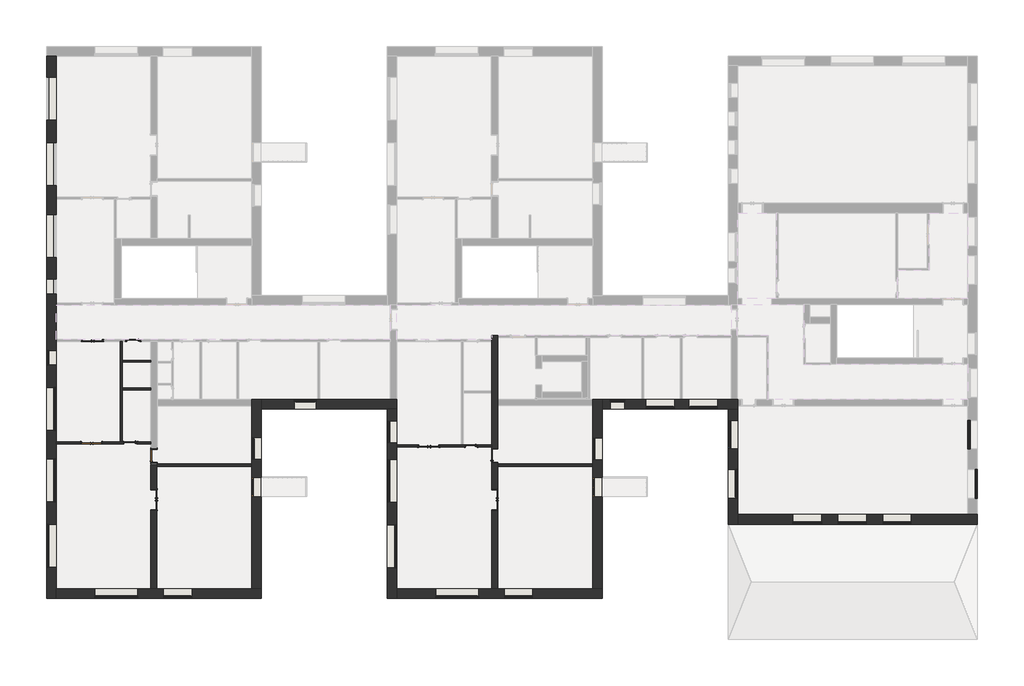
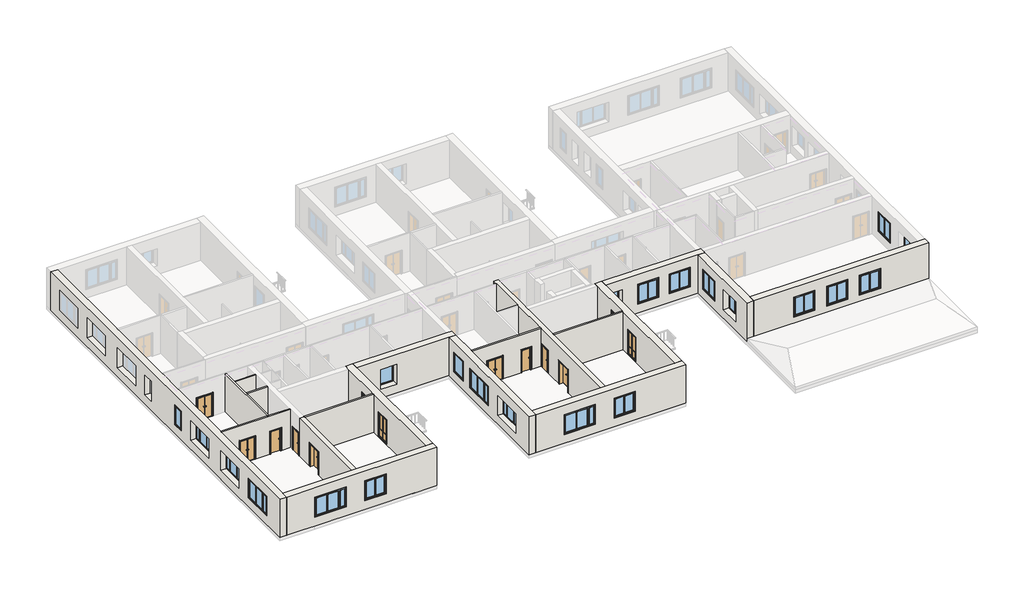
# One storey, part 1 of 4: 24 windows, 19 walls, 12 doors.
"""IFC4 building model written with IfcOpenShell, lengths in millimetres."""

from ifc_helpers import new_model, si_unit, frame, origin, place, context, project, spatial, polyline, outline, extrude, faceted_brep, transform, mapped, element, save
from components import door_6cda5d05, door_65913abd, door_ebb03b69, door_fb527220, door_6515f566, door_53fc3f74, door_a652fb3b, door_428ffb38, window_17d24cb2, window_825c4489, window_d8f3b313, window_630a9bb4

model = new_model("IFC4")

# Units and contexts
model_context = context("Model", 3, world=origin())
ifc_project = project(units=[si_unit("LENGTHUNIT", "METRE", prefix="MILLI")], contexts=[model_context])

# Site, building, storey
site = spatial("IfcSite", under=ifc_project)
building = spatial("IfcBuilding", under=site)
storey = spatial("IfcBuildingStorey", under=building, Name="2 этаж", Elevation=3500.0)

# Doors
placement = place(None, origin())
door_shape = door_6cda5d05(model_context)
element("IfcDoor", 1, ObjectType="Наружная дверь 2-Навесная - Один проем наружу с порогом - 31173-2003 : ДСН ДКН М2 2100-1300 ГОСТ 31173-2003", at=placement, inside=storey, context=model_context, shape_type="MappedRepresentation", body=[
    mapped(door_shape, transform((-14174.8240021, -2742.8629895, 3500.0), x_axis=(1.0, 0.0, 0.0), y_axis=(0.0, 1.0, 0.0), z_axis=(0.0, 0.0, 1.0))),
])
element("IfcDoor", 2, ObjectType="Наружная дверь 2-Навесная - Один проем наружу с порогом - 31173-2003 : ДСН ДКН М2 2100-1300 ГОСТ 31173-2003", at=placement, inside=storey, context=model_context, shape_type="MappedRepresentation", body=[
    mapped(door_shape, transform((-35524.8240021, 3962.1370105, 3500.0), x_axis=(1.0, 0.0, 0.0), y_axis=(0.0, 1.0, 0.0), z_axis=(0.0, 0.0, 1.0))),
])
element("IfcDoor", 3, ObjectType="Наружная дверь 2-Навесная - Один проем наружу с порогом - 31173-2003 : ДСН ДКН М2 2100-1300 ГОСТ 31173-2003", at=placement, inside=storey, context=model_context, shape_type="MappedRepresentation", body=[
    mapped(door_shape, transform((-35584.8240021, -2542.8629895, 3500.0), x_axis=(1.0, 0.0, 0.0), y_axis=(0.0, 1.0, 0.0), z_axis=(0.0, 0.0, 1.0))),
])
door_2_shape = door_65913abd(model_context)
element("IfcDoor", 4, ObjectType="Наружная дверь 2-Навесная - Один проем наружу с порогом - 31173-2003 : ДСН ДКН М2 2100-1300 ГОСТ 31173-2003", at=placement, inside=storey, context=model_context, shape_type="MappedRepresentation", body=[
    mapped(door_2_shape, transform((-9982.3240021, -6152.8629895, 3500.0), x_axis=(0.0, 1.0, 0.0), y_axis=(-1.0, 0.0, 0.0), z_axis=(0.0, 0.0, 1.0))),
])
element("IfcDoor", 5, ObjectType="Наружная дверь 2-Навесная - Один проем наружу с порогом - 31173-2003 : ДСН ДКН М2 2100-1300 ГОСТ 31173-2003", at=placement, inside=storey, context=model_context, shape_type="MappedRepresentation", body=[
    mapped(door_2_shape, transform((-31622.3240021, -6152.8629895, 3500.0), x_axis=(0.0, 1.0, 0.0), y_axis=(-1.0, 0.0, 0.0), z_axis=(0.0, 0.0, 1.0))),
])
door_3_shape = door_ebb03b69(model_context)
element("IfcDoor", 6, ObjectType="Внутренняя дверь 1-Навесная - 6629-88 : ДГ 21-9  ГОСТ 6629-88", at=placement, inside=storey, context=model_context, shape_type="MappedRepresentation", body=[
    mapped(door_3_shape, transform((-9982.3240021, -3347.8629895, 3500.0), x_axis=(0.0, 1.0, 0.0), y_axis=(-1.0, 0.0, 0.0), z_axis=(0.0, 0.0, 1.0))),
])
door_4_shape = door_fb527220(model_context)
element("IfcDoor", 7, ObjectType="Внутренняя дверь 1-Навесная - 6629-88 : ДГ 21-8  ГОСТ 6629-88", at=placement, inside=storey, context=model_context, shape_type="MappedRepresentation", body=[
    mapped(door_4_shape, transform((-11474.8240021, -2742.8629895, 3500.0), x_axis=(-1.0, 0.0, 0.0), y_axis=(0.0, -1.0, 0.0), z_axis=(0.0, 0.0, 1.0))),
])
door_5_shape = door_6515f566(model_context)
element("IfcDoor", 8, ObjectType="Внутренняя дверь 1-Навесная - 6629-88 : ДГ 21-9Л  ГОСТ 6629-88", at=placement, inside=storey, context=model_context, shape_type="MappedRepresentation", body=[
    mapped(door_5_shape, transform((-32944.8240021, 3962.1370105, 3500.0), x_axis=(1.0, 0.0, 0.0), y_axis=(0.0, 1.0, 0.0), z_axis=(0.0, 0.0, 1.0))),
])
door_6_shape = door_53fc3f74(model_context)
element("IfcDoor", 9, ObjectType="Внутренняя дверь 1-Навесная - 6629-88 : ДГ 21-9  ГОСТ 6629-88", at=placement, inside=storey, context=model_context, shape_type="MappedRepresentation", body=[
    mapped(door_6_shape, transform((-33124.8240021, -2542.8629895, 3500.0), x_axis=(-1.0, 0.0, 0.0), y_axis=(0.0, -1.0, 0.0), z_axis=(0.0, 0.0, 1.0))),
])
door_7_shape = door_a652fb3b(model_context)
element("IfcDoor", 10, ObjectType="Внутренняя дверь 1-Навесная - 6629-88 : ДГ 21-9  ГОСТ 6629-88", at=placement, inside=storey, context=model_context, shape_type="MappedRepresentation", body=[
    mapped(door_7_shape, transform((-31612.3240021, -3372.8629895, 3500.0), x_axis=(0.0, 1.0, 0.0), y_axis=(-1.0, 0.0, 0.0), z_axis=(0.0, 0.0, 1.0))),
])
door_8_shape = door_428ffb38(model_context)
element("IfcDoor", 11, ObjectType="Балконная дверь 2-Распашная - Сдвоенные переплеты с остеклением - 11214-2003 : БД СП Д1 2175-1174-94 ГОСТ 11214-2003", at=placement, inside=storey, context=model_context, shape_type="MappedRepresentation", body=[
    mapped(door_8_shape, transform((-25107.3240021, -5342.3629895, 3500.0), x_axis=(0.0, 1.0, 0.0), y_axis=(-1.0, 0.0, 0.0), z_axis=(0.0, 0.0, 1.0))),
])
element("IfcDoor", 12, ObjectType="Балконная дверь 2-Распашная - Сдвоенные переплеты с остеклением - 11214-2003 : БД СП Д1 2175-1174-94 ГОСТ 11214-2003", at=placement, inside=storey, context=model_context, shape_type="MappedRepresentation", body=[
    mapped(door_8_shape, transform((-3467.3240021, -5352.8629895, 3500.0), x_axis=(0.0, 1.0, 0.0), y_axis=(-1.0, 0.0, 0.0), z_axis=(0.0, 0.0, 1.0))),
])

# Walls
element("IfcWall", 13, ObjectType="ADSK_Внутренняя_Кирпич_610", at=placement, inside=storey, context=model_context, shape_type="Brep", body=[
    faceted_brep([(-38442.3240021, 22034.6370105, 3500.0), (-38442.3240021, -12415.3629895, 3500.0), (-38442.3240021, -12415.3629895, 7000.0), (-38442.3240021, 22034.6370105, 7000.0), (-38442.3240021, 2412.1370105, 4300.0), (-38442.3240021, 3342.1370105, 4300.0), (-38442.3240021, 3342.1370105, 6120.0), (-38442.3240021, 2412.1370105, 6120.0), (-38442.3240021, 7857.1370105, 4300.0), (-38442.3240021, 7857.1370105, 6120.0), (-38442.3240021, 6927.1370105, 6120.0), (-38442.3240021, 6927.1370105, 4300.0), (-38442.3240021, -10455.3629895, 4300.0), (-38442.3240021, -7725.3629895, 4300.0), (-38442.3240021, -7725.3629895, 6120.0), (-38442.3240021, -10455.3629895, 6120.0), (-38442.3240021, -3565.3629895, 4300.0), (-38442.3240021, -3565.3629895, 6120.0), (-38442.3240021, -6295.3629895, 6120.0), (-38442.3240021, -6295.3629895, 4300.0), (-38442.3240021, 982.1370105, 4300.0), (-38442.3240021, 982.1370105, 6120.0), (-38442.3240021, -1747.8629895, 6120.0), (-38442.3240021, -1747.8629895, 4300.0), (-38442.3240021, 11977.1370105, 4300.0), (-38442.3240021, 11977.1370105, 6120.0), (-38442.3240021, 9247.1370105, 6120.0), (-38442.3240021, 9247.1370105, 4300.0), (-38442.3240021, 16532.1370105, 4300.0), (-38442.3240021, 16532.1370105, 6120.0), (-38442.3240021, 13802.1370105, 6120.0), (-38442.3240021, 13802.1370105, 4300.0), (-38442.3240021, 17954.6370105, 4300.0), (-38442.3240021, 20684.6370105, 4300.0), (-38442.3240021, 20684.6370105, 6120.0), (-38442.3240021, 17954.6370105, 6120.0), (-37832.3240021, 22034.6370105, 3500.0), (-37832.3240021, 22034.6370105, 7000.0), (-37832.3240021, 13069.6370105, 7000.0), (-37832.3240021, 12944.6370105, 7000.0), (-37832.3240021, 6349.6370105, 7000.0), (-37832.3240021, 6224.6370105, 7000.0), (-37832.3240021, 4024.6370105, 7000.0), (-37832.3240021, 3899.6370105, 7000.0), (-37832.3240021, -2480.3629895, 7000.0), (-37832.3240021, -2605.3629895, 7000.0), (-37832.3240021, -11805.3629895, 7000.0), (-37832.3240021, -12415.3629895, 7000.0), (-37832.3240021, -12415.3629895, 3500.0), (-37832.3240021, -11805.3629895, 3500.0), (-37832.3240021, -2605.3629895, 3500.0), (-37832.3240021, -2480.3629895, 3500.0), (-37832.3240021, 3899.6370105, 3500.0), (-37832.3240021, 4024.6370105, 3500.0), (-37832.3240021, 6224.6370105, 3500.0), (-37832.3240021, 6349.6370105, 3500.0), (-37832.3240021, 12944.6370105, 3500.0), (-37832.3240021, 13069.6370105, 3500.0), (-37832.3240021, 2412.1370105, 4300.0), (-37832.3240021, 2412.1370105, 6120.0), (-37832.3240021, 3342.1370105, 6120.0), (-37832.3240021, 3342.1370105, 4300.0), (-37832.3240021, 7857.1370105, 4300.0), (-37832.3240021, 6927.1370105, 4300.0), (-37832.3240021, 6927.1370105, 6120.0), (-37832.3240021, 7857.1370105, 6120.0), (-37832.3240021, -10455.3629895, 4300.0), (-37832.3240021, -10455.3629895, 6120.0), (-37832.3240021, -7725.3629895, 6120.0), (-37832.3240021, -7725.3629895, 4300.0), (-37832.3240021, -3565.3629895, 4300.0), (-37832.3240021, -6295.3629895, 4300.0), (-37832.3240021, -6295.3629895, 6120.0), (-37832.3240021, -3565.3629895, 6120.0), (-37832.3240021, 982.1370105, 4300.0), (-37832.3240021, -1747.8629895, 4300.0), (-37832.3240021, -1747.8629895, 6120.0), (-37832.3240021, 982.1370105, 6120.0), (-37832.3240021, 11977.1370105, 4300.0), (-37832.3240021, 9247.1370105, 4300.0), (-37832.3240021, 9247.1370105, 6120.0), (-37832.3240021, 11977.1370105, 6120.0), (-37832.3240021, 16532.1370105, 4300.0), (-37832.3240021, 13802.1370105, 4300.0), (-37832.3240021, 13802.1370105, 6120.0), (-37832.3240021, 16532.1370105, 6120.0), (-37832.3240021, 17954.6370105, 4300.0), (-37832.3240021, 17954.6370105, 6120.0), (-37832.3240021, 20684.6370105, 6120.0), (-37832.3240021, 20684.6370105, 4300.0)], [[[0, 1, 2, 3], [4, 5, 6, 7], [8, 9, 10, 11], [12, 13, 14, 15], [16, 17, 18, 19], [20, 21, 22, 23], [24, 25, 26, 27], [28, 29, 30, 31], [32, 33, 34, 35]], [[36, 37, 38, 39, 40, 41, 42, 43, 44, 45, 46, 47, 48, 49, 50, 51, 52, 53, 54, 55, 56, 57], [58, 59, 60, 61], [62, 63, 64, 65], [66, 67, 68, 69], [70, 71, 72, 73], [74, 75, 76, 77], [78, 79, 80, 81], [82, 83, 84, 85], [86, 87, 88, 89]], [[1, 0, 36, 57, 56, 55, 54, 53, 52, 51, 50, 49, 48]], [[0, 3, 37, 36]], [[2, 1, 48, 47]], [[59, 58, 4, 7]], [[60, 59, 7, 6]], [[61, 60, 6, 5]], [[58, 61, 5, 4]], [[9, 8, 62, 65]], [[10, 9, 65, 64]], [[11, 10, 64, 63]], [[8, 11, 63, 62]], [[67, 66, 12, 15]], [[68, 67, 15, 14]], [[69, 68, 14, 13]], [[66, 69, 13, 12]], [[17, 16, 70, 73]], [[18, 17, 73, 72]], [[19, 18, 72, 71]], [[16, 19, 71, 70]], [[21, 20, 74, 77]], [[22, 21, 77, 76]], [[23, 22, 76, 75]], [[20, 23, 75, 74]], [[25, 24, 78, 81]], [[26, 25, 81, 80]], [[27, 26, 80, 79]], [[24, 27, 79, 78]], [[29, 28, 82, 85]], [[30, 29, 85, 84]], [[31, 30, 84, 83]], [[28, 31, 83, 82]], [[87, 86, 32, 35]], [[88, 87, 35, 34]], [[89, 88, 34, 33]], [[86, 89, 33, 32]], [[3, 2, 47, 46, 45, 44, 43, 42, 41, 40, 39, 38, 37]]]),
])
element("IfcWall", 14, ObjectType="ADSK_Внутренняя_Кирпич_610", at=placement, inside=storey, context=model_context, shape_type="Brep", body=[
    faceted_brep([(-37832.3240021, -12415.3629895, 3500.0), (-24802.3240021, -12415.3629895, 3500.0), (-24802.3240021, -12415.3629895, 7000.0), (-35377.3240021, -12415.3629895, 7000.0), (-37832.3240021, -12415.3629895, 7000.0), (-32647.3240021, -12415.3629895, 4300.0), (-35377.3240021, -12415.3629895, 4300.0), (-35377.3240021, -12415.3629895, 6120.0), (-32647.3240021, -12415.3629895, 6120.0), (-29197.3240021, -12415.3629895, 4300.0), (-31027.3240021, -12415.3629895, 4300.0), (-31027.3240021, -12415.3629895, 6120.0), (-29197.3240021, -12415.3629895, 6120.0), (-37832.3240021, -11805.3629895, 3500.0), (-37832.3240021, -11805.3629895, 7000.0), (-31812.3240021, -11805.3629895, 7000.0), (-31432.3240021, -11805.3629895, 7000.0), (-25412.3240021, -11805.3629895, 7000.0), (-24802.3240021, -11805.3629895, 7000.0), (-24802.3240021, -11805.3629895, 3500.0), (-25412.3240021, -11805.3629895, 3500.0), (-31432.3240021, -11805.3629895, 3500.0), (-31812.3240021, -11805.3629895, 3500.0), (-32647.3240021, -11805.3629895, 4300.0), (-32647.3240021, -11805.3629895, 6120.0), (-35377.3240021, -11805.3629895, 6120.0), (-35377.3240021, -11805.3629895, 4300.0), (-29197.3240021, -11805.3629895, 4300.0), (-29197.3240021, -11805.3629895, 6120.0), (-31027.3240021, -11805.3629895, 6120.0), (-31027.3240021, -11805.3629895, 4300.0)], [[[0, 1, 2, 3, 4], [5, 6, 7, 8], [9, 10, 11, 12]], [[13, 14, 15, 16, 17, 18, 19, 20, 21, 22], [23, 24, 25, 26], [27, 28, 29, 30]], [[1, 0, 13, 22, 21, 20, 19]], [[0, 4, 14, 13]], [[2, 1, 19, 18]], [[24, 23, 5, 8]], [[25, 24, 8, 7]], [[26, 25, 7, 6]], [[23, 26, 6, 5]], [[28, 27, 9, 12]], [[29, 28, 12, 11]], [[30, 29, 11, 10]], [[27, 30, 10, 9]], [[4, 3, 2, 18, 17, 16, 15, 14]]]),
])
element("IfcWall", 15, ObjectType="ADSK_Внутренняя_Кирпич_610", at=placement, inside=storey, context=model_context, shape_type="Brep", body=[
    faceted_brep([(-24802.3240021, -11805.3629895, 3500.0), (-24802.3240021, -385.3629895, 3500.0), (-24802.3240021, 224.6370105, 3500.0), (-24802.3240021, 224.6370105, 7000.0), (-24802.3240021, -385.3629895, 7000.0), (-24802.3240021, -11805.3629895, 7000.0), (-24802.3240021, -3590.3629895, 4300.0), (-24802.3240021, -3590.3629895, 6120.0), (-24802.3240021, -2210.3629895, 6120.0), (-24802.3240021, -2210.3629895, 4300.0), (-24802.3240021, -5959.3629895, 3600.0), (-24802.3240021, -5959.3629895, 5835.0), (-24802.3240021, -4725.3629895, 5835.0), (-24802.3240021, -4725.3629895, 3600.0), (-25412.3240021, 224.6370105, 3500.0), (-25412.3240021, -195.3629895, 3500.0), (-25412.3240021, -3880.3629895, 3500.0), (-25412.3240021, -4025.3629895, 3500.0), (-25412.3240021, -11805.3629895, 3500.0), (-25412.3240021, -11805.3629895, 7000.0), (-25412.3240021, -4025.3629895, 7000.0), (-25412.3240021, -3880.3629895, 7000.0), (-25412.3240021, -195.3629895, 7000.0), (-25412.3240021, 224.6370105, 7000.0), (-25412.3240021, -3590.3629895, 6120.0), (-25412.3240021, -3590.3629895, 4300.0), (-25412.3240021, -2210.3629895, 4300.0), (-25412.3240021, -2210.3629895, 6120.0), (-25412.3240021, -5959.3629895, 5835.0), (-25412.3240021, -5959.3629895, 3600.0), (-25412.3240021, -4725.3629895, 3600.0), (-25412.3240021, -4725.3629895, 5835.0)], [[[0, 1, 2, 3, 4, 5], [6, 7, 8, 9], [10, 11, 12, 13]], [[14, 15, 16, 17, 18, 19, 20, 21, 22, 23], [24, 25, 26, 27], [28, 29, 30, 31]], [[2, 1, 0, 18, 17, 16, 15, 14]], [[0, 5, 19, 18]], [[3, 2, 14, 23]], [[7, 6, 25, 24]], [[8, 7, 24, 27]], [[9, 8, 27, 26]], [[6, 9, 26, 25]], [[10, 29, 28, 11]], [[11, 28, 31, 12]], [[12, 31, 30, 13]], [[29, 10, 13, 30]], [[23, 22, 21, 20, 19, 5, 4, 3]]]),
])
element("IfcWall", 16, ObjectType="ADSK_Внутренняя_Кирпич_610", at=placement, inside=storey, context=model_context, shape_type="Brep", body=[
    faceted_brep([(-24802.3240021, -385.3629895, 3500.0), (-16802.3240021, -385.3629895, 3500.0), (-16192.3240021, -385.3629895, 3500.0), (-16192.3240021, -385.3629895, 7000.0), (-16802.3240021, -385.3629895, 7000.0), (-24802.3240021, -385.3629895, 7000.0), (-22704.7990021, -385.3629895, 4300.0), (-22704.7990021, -385.3629895, 6120.0), (-21324.7990021, -385.3629895, 6120.0), (-21324.7990021, -385.3629895, 4300.0), (-24802.3240021, 224.6370105, 3500.0), (-24802.3240021, 224.6370105, 7000.0), (-21212.3240021, 224.6370105, 7000.0), (-21087.3240021, 224.6370105, 7000.0), (-16612.3240021, 224.6370105, 7000.0), (-16192.3240021, 224.6370105, 7000.0), (-16192.3240021, 224.6370105, 3500.0), (-16612.3240021, 224.6370105, 3500.0), (-21087.3240021, 224.6370105, 3500.0), (-21212.3240021, 224.6370105, 3500.0), (-22704.7990021, 224.6370105, 4300.0), (-21324.7990021, 224.6370105, 4300.0), (-21324.7990021, 224.6370105, 6120.0), (-22704.7990021, 224.6370105, 6120.0)], [[[0, 1, 2, 3, 4, 5], [6, 7, 8, 9]], [[10, 11, 12, 13, 14, 15, 16, 17, 18, 19], [20, 21, 22, 23]], [[2, 1, 0, 10, 19, 18, 17, 16]], [[0, 5, 11, 10]], [[3, 2, 16, 15]], [[7, 6, 20, 23]], [[8, 7, 23, 22]], [[9, 8, 22, 21]], [[6, 9, 21, 20]], [[5, 4, 3, 15, 14, 13, 12, 11]]]),
])
element("IfcWall", 17, ObjectType="ADSK_Внутренняя_Кирпич_610", at=placement, inside=storey, context=model_context, shape_type="Brep", body=[
    faceted_brep([(-16802.3240021, -385.3629895, 3500.0), (-16802.3240021, -12415.3629895, 3500.0), (-16802.3240021, -12415.3629895, 7000.0), (-16802.3240021, -385.3629895, 7000.0), (-16802.3240021, -7745.3629895, 4300.0), (-16802.3240021, -7745.3629895, 6120.0), (-16802.3240021, -10475.3629895, 6120.0), (-16802.3240021, -10475.3629895, 4300.0), (-16802.3240021, -6307.8629895, 4300.0), (-16802.3240021, -3577.8629895, 4300.0), (-16802.3240021, -3577.8629895, 6120.0), (-16802.3240021, -6307.8629895, 6120.0), (-16802.3240021, -2532.8629895, 4300.0), (-16802.3240021, -1152.8629895, 4300.0), (-16802.3240021, -1152.8629895, 6120.0), (-16802.3240021, -2532.8629895, 6120.0), (-16192.3240021, -385.3629895, 3500.0), (-16192.3240021, -385.3629895, 7000.0), (-16192.3240021, -2680.3629895, 7000.0), (-16192.3240021, -2805.3629895, 7000.0), (-16192.3240021, -11805.3629895, 7000.0), (-16192.3240021, -12415.3629895, 7000.0), (-16192.3240021, -12415.3629895, 3500.0), (-16192.3240021, -11805.3629895, 3500.0), (-16192.3240021, -2805.3629895, 3500.0), (-16192.3240021, -2680.3629895, 3500.0), (-16192.3240021, -7745.3629895, 4300.0), (-16192.3240021, -10475.3629895, 4300.0), (-16192.3240021, -10475.3629895, 6120.0), (-16192.3240021, -7745.3629895, 6120.0), (-16192.3240021, -6307.8629895, 4300.0), (-16192.3240021, -6307.8629895, 6120.0), (-16192.3240021, -3577.8629895, 6120.0), (-16192.3240021, -3577.8629895, 4300.0), (-16192.3240021, -2532.8629895, 4300.0), (-16192.3240021, -2532.8629895, 6120.0), (-16192.3240021, -1152.8629895, 6120.0), (-16192.3240021, -1152.8629895, 4300.0)], [[[0, 1, 2, 3], [4, 5, 6, 7], [8, 9, 10, 11], [12, 13, 14, 15]], [[16, 17, 18, 19, 20, 21, 22, 23, 24, 25], [26, 27, 28, 29], [30, 31, 32, 33], [34, 35, 36, 37]], [[1, 0, 16, 25, 24, 23, 22]], [[0, 3, 17, 16]], [[2, 1, 22, 21]], [[5, 4, 26, 29]], [[6, 5, 29, 28]], [[7, 6, 28, 27]], [[4, 7, 27, 26]], [[31, 30, 8, 11]], [[32, 31, 11, 10]], [[33, 32, 10, 9]], [[30, 33, 9, 8]], [[35, 34, 12, 15]], [[36, 35, 15, 14]], [[37, 36, 14, 13]], [[34, 37, 13, 12]], [[3, 2, 21, 20, 19, 18, 17]]]),
])
element("IfcWall", 18, ObjectType="ADSK_Внутренняя_Кирпич_610", at=placement, inside=storey, context=model_context, shape_type="Brep", body=[
    faceted_brep([(-16192.3240021, -12415.3629895, 3500.0), (-3162.3240021, -12415.3629895, 3500.0), (-3162.3240021, -12415.3629895, 7000.0), (-16192.3240021, -12415.3629895, 7000.0), (-11007.3240021, -12415.3629895, 4300.0), (-13737.3240021, -12415.3629895, 4300.0), (-13737.3240021, -12415.3629895, 6120.0), (-11007.3240021, -12415.3629895, 6120.0), (-7557.3240021, -12415.3629895, 4300.0), (-9387.3240021, -12415.3629895, 4300.0), (-9387.3240021, -12415.3629895, 6120.0), (-7557.3240021, -12415.3629895, 6120.0), (-16192.3240021, -11805.3629895, 3500.0), (-16192.3240021, -11805.3629895, 7000.0), (-10172.3240021, -11805.3629895, 7000.0), (-9792.3240021, -11805.3629895, 7000.0), (-3772.3240021, -11805.3629895, 7000.0), (-3162.3240021, -11805.3629895, 7000.0), (-3162.3240021, -11805.3629895, 3500.0), (-3772.3240021, -11805.3629895, 3500.0), (-9792.3240021, -11805.3629895, 3500.0), (-10172.3240021, -11805.3629895, 3500.0), (-11007.3240021, -11805.3629895, 4300.0), (-11007.3240021, -11805.3629895, 6120.0), (-13737.3240021, -11805.3629895, 6120.0), (-13737.3240021, -11805.3629895, 4300.0), (-7557.3240021, -11805.3629895, 4300.0), (-7557.3240021, -11805.3629895, 6120.0), (-9387.3240021, -11805.3629895, 6120.0), (-9387.3240021, -11805.3629895, 4300.0)], [[[0, 1, 2, 3], [4, 5, 6, 7], [8, 9, 10, 11]], [[12, 13, 14, 15, 16, 17, 18, 19, 20, 21], [22, 23, 24, 25], [26, 27, 28, 29]], [[1, 0, 12, 21, 20, 19, 18]], [[0, 3, 13, 12]], [[2, 1, 18, 17]], [[23, 22, 4, 7]], [[24, 23, 7, 6]], [[25, 24, 6, 5]], [[22, 25, 5, 4]], [[27, 26, 8, 11]], [[28, 27, 11, 10]], [[29, 28, 10, 9]], [[26, 29, 9, 8]], [[3, 2, 17, 16, 15, 14, 13]]]),
])
element("IfcWall", 19, ObjectType="ADSK_Внутренняя_Кирпич_610", at=placement, inside=storey, context=model_context, shape_type="Brep", body=[
    faceted_brep([(-3162.3240021, -11805.3629895, 3500.0), (-3162.3240021, -385.3629895, 3500.0), (-3162.3240021, 224.6370105, 3500.0), (-3162.3240021, 224.6370105, 7000.0), (-3162.3240021, -385.3629895, 7000.0), (-3162.3240021, -11805.3629895, 7000.0), (-3162.3240021, -3612.8629895, 4300.0), (-3162.3240021, -3612.8629895, 6120.0), (-3162.3240021, -2232.8629895, 6120.0), (-3162.3240021, -2232.8629895, 4300.0), (-3162.3240021, -5969.8629895, 3600.0), (-3162.3240021, -5969.8629895, 5835.0), (-3162.3240021, -4735.8629895, 5835.0), (-3162.3240021, -4735.8629895, 3600.0), (-3772.3240021, -11805.3629895, 3500.0), (-3772.3240021, -11805.3629895, 7000.0), (-3772.3240021, -4025.3629895, 7000.0), (-3772.3240021, -3880.3629895, 7000.0), (-3772.3240021, -175.3629895, 7000.0), (-3772.3240021, 204.6370105, 7000.0), (-3772.3240021, 224.6370105, 7000.0), (-3772.3240021, 224.6370105, 3500.0), (-3772.3240021, 204.6370105, 3500.0), (-3772.3240021, -175.3629895, 3500.0), (-3772.3240021, -3880.3629895, 3500.0), (-3772.3240021, -4025.3629895, 3500.0), (-3772.3240021, -3612.8629895, 4300.0), (-3772.3240021, -2232.8629895, 4300.0), (-3772.3240021, -2232.8629895, 6120.0), (-3772.3240021, -3612.8629895, 6120.0), (-3772.3240021, -5969.8629895, 3600.0), (-3772.3240021, -4735.8629895, 3600.0), (-3772.3240021, -4735.8629895, 5835.0), (-3772.3240021, -5969.8629895, 5835.0)], [[[0, 1, 2, 3, 4, 5], [6, 7, 8, 9], [10, 11, 12, 13]], [[14, 15, 16, 17, 18, 19, 20, 21, 22, 23, 24, 25], [26, 27, 28, 29], [30, 31, 32, 33]], [[2, 1, 0, 14, 25, 24, 23, 22, 21]], [[0, 5, 15, 14]], [[3, 2, 21, 20]], [[7, 6, 26, 29]], [[8, 7, 29, 28]], [[9, 8, 28, 27]], [[6, 9, 27, 26]], [[11, 10, 30, 33]], [[12, 11, 33, 32]], [[13, 12, 32, 31]], [[10, 13, 31, 30]], [[5, 4, 3, 20, 19, 18, 17, 16, 15]]]),
])
element("IfcWall", 20, ObjectType="ADSK_Внутренняя_Кирпич_610", at=placement, inside=storey, context=model_context, shape_type="Brep", body=[
    faceted_brep([(-3162.3240021, -385.3629895, 3500.0), (4837.6759979, -385.3629895, 3500.0), (5447.6759979, -385.3629895, 3500.0), (5447.6759979, -385.3629895, 7000.0), (4837.6759979, -385.3629895, 7000.0), (-3162.3240021, -385.3629895, 7000.0), (-2662.3240021, -385.3629895, 4300.0), (-2662.3240021, -385.3629895, 6120.0), (-1732.3240021, -385.3629895, 6120.0), (-1732.3240021, -385.3629895, 4300.0), (4177.6759979, -385.3629895, 4300.0), (2347.6759979, -385.3629895, 4300.0), (2347.6759979, -385.3629895, 6120.0), (4177.6759979, -385.3629895, 6120.0), (1437.6759979, -385.3629895, 4300.0), (-392.3240021, -385.3629895, 4300.0), (-392.3240021, -385.3629895, 6120.0), (1437.6759979, -385.3629895, 6120.0), (-3162.3240021, 224.6370105, 3500.0), (-3162.3240021, 224.6370105, 7000.0), (-662.3240021, 224.6370105, 7000.0), (-537.3240021, 224.6370105, 7000.0), (1792.6759979, 224.6370105, 7000.0), (1917.6759979, 224.6370105, 7000.0), (5047.6759979, 224.6370105, 7000.0), (5427.6759979, 224.6370105, 7000.0), (5447.6759979, 224.6370105, 7000.0), (5447.6759979, 224.6370105, 3500.0), (5427.6759979, 224.6370105, 3500.0), (5047.6759979, 224.6370105, 3500.0), (1917.6759979, 224.6370105, 3500.0), (1792.6759979, 224.6370105, 3500.0), (-537.3240021, 224.6370105, 3500.0), (-662.3240021, 224.6370105, 3500.0), (-2662.3240021, 224.6370105, 4300.0), (-1732.3240021, 224.6370105, 4300.0), (-1732.3240021, 224.6370105, 6120.0), (-2662.3240021, 224.6370105, 6120.0), (4177.6759979, 224.6370105, 4300.0), (4177.6759979, 224.6370105, 6120.0), (2347.6759979, 224.6370105, 6120.0), (2347.6759979, 224.6370105, 4300.0), (1437.6759979, 224.6370105, 4300.0), (1437.6759979, 224.6370105, 6120.0), (-392.3240021, 224.6370105, 6120.0), (-392.3240021, 224.6370105, 4300.0), (5447.6759979, 204.6370105, 3500.0), (5447.6759979, -195.3629895, 3500.0), (5447.6759979, 204.6370105, 7000.0), (5447.6759979, -195.3629895, 7000.0)], [[[0, 1, 2, 3, 4, 5], [6, 7, 8, 9], [10, 11, 12, 13], [14, 15, 16, 17]], [[18, 19, 20, 21, 22, 23, 24, 25, 26, 27, 28, 29, 30, 31, 32, 33], [34, 35, 36, 37], [38, 39, 40, 41], [42, 43, 44, 45]], [[2, 1, 0, 18, 33, 32, 31, 30, 29, 28, 27, 46, 47]], [[0, 5, 19, 18]], [[3, 2, 47, 46, 27, 26, 48, 49]], [[7, 6, 34, 37]], [[8, 7, 37, 36]], [[9, 8, 36, 35]], [[6, 9, 35, 34]], [[39, 38, 10, 13]], [[40, 39, 13, 12]], [[41, 40, 12, 11]], [[38, 41, 11, 10]], [[43, 42, 14, 17]], [[44, 43, 17, 16]], [[45, 44, 16, 15]], [[42, 45, 15, 14]], [[5, 4, 3, 49, 48, 26, 25, 24, 23, 22, 21, 20, 19]]]),
])
element("IfcWall", 21, ObjectType="ADSK_Внутренняя_Кирпич_610", at=placement, inside=storey, context=model_context, shape_type="Brep", body=[
    faceted_brep([(4837.6759979, -385.3629895, 3500.0), (4837.6759979, -7705.3629895, 3500.0), (4837.6759979, -7705.3629895, 7000.0), (4837.6759979, -385.3629895, 7000.0), (4837.6759979, -2935.3629895, 4300.0), (4837.6759979, -1105.3629895, 4300.0), (4837.6759979, -1105.3629895, 6120.0), (4837.6759979, -2935.3629895, 6120.0), (4837.6759979, -4225.3629895, 4300.0), (4837.6759979, -4225.3629895, 6120.0), (4837.6759979, -6055.3629895, 6120.0), (4837.6759979, -6055.3629895, 4300.0), (5447.6759979, -385.3629895, 3500.0), (5447.6759979, -385.3629895, 7000.0), (5447.6759979, -7095.3629895, 7000.0), (5447.6759979, -7705.3629895, 7000.0), (5447.6759979, -7705.3629895, 3500.0), (5447.6759979, -7095.3629895, 3500.0), (5447.6759979, -2935.3629895, 4300.0), (5447.6759979, -2935.3629895, 6120.0), (5447.6759979, -1105.3629895, 6120.0), (5447.6759979, -1105.3629895, 4300.0), (5447.6759979, -4225.3629895, 4300.0), (5447.6759979, -6055.3629895, 4300.0), (5447.6759979, -6055.3629895, 6120.0), (5447.6759979, -4225.3629895, 6120.0)], [[[0, 1, 2, 3], [4, 5, 6, 7], [8, 9, 10, 11]], [[12, 13, 14, 15, 16, 17], [18, 19, 20, 21], [22, 23, 24, 25]], [[1, 0, 12, 17, 16]], [[0, 3, 13, 12]], [[2, 1, 16, 15]], [[19, 18, 4, 7]], [[20, 19, 7, 6]], [[21, 20, 6, 5]], [[18, 21, 5, 4]], [[9, 8, 22, 25]], [[10, 9, 25, 24]], [[11, 10, 24, 23]], [[8, 11, 23, 22]], [[3, 2, 15, 14, 13]]]),
])
element("IfcWall", 22, ObjectType="ADSK_Внутренняя_Кирпич_610", at=placement, inside=storey, context=model_context, shape_type="Brep", body=[
    faceted_brep([(5447.6759979, -7705.3629895, 3500.0), (20667.6759979, -7705.3629895, 3500.0), (20667.6759979, -7705.3629895, 7000.0), (5447.6759979, -7705.3629895, 7000.0), (16477.6759979, -7705.3629895, 4300.0), (14647.6759979, -7705.3629895, 4300.0), (14647.6759979, -7705.3629895, 6120.0), (16477.6759979, -7705.3629895, 6120.0), (13637.6759979, -7705.3629895, 4300.0), (11807.6759979, -7705.3629895, 4300.0), (11807.6759979, -7705.3629895, 6120.0), (13637.6759979, -7705.3629895, 6120.0), (10772.6759979, -7705.3629895, 4300.0), (8942.6759979, -7705.3629895, 4300.0), (8942.6759979, -7705.3629895, 6120.0), (10772.6759979, -7705.3629895, 6120.0), (5447.6759979, -7095.3629895, 3500.0), (5447.6759979, -7095.3629895, 7000.0), (20057.6759979, -7095.3629895, 7000.0), (20667.6759979, -7095.3629895, 7000.0), (20667.6759979, -7095.3629895, 3500.0), (20057.6759979, -7095.3629895, 3500.0), (16477.6759979, -7095.3629895, 4300.0), (16477.6759979, -7095.3629895, 6120.0), (14647.6759979, -7095.3629895, 6120.0), (14647.6759979, -7095.3629895, 4300.0), (13637.6759979, -7095.3629895, 4300.0), (13637.6759979, -7095.3629895, 6120.0), (11807.6759979, -7095.3629895, 6120.0), (11807.6759979, -7095.3629895, 4300.0), (10772.6759979, -7095.3629895, 4300.0), (10772.6759979, -7095.3629895, 6120.0), (8942.6759979, -7095.3629895, 6120.0), (8942.6759979, -7095.3629895, 4300.0)], [[[0, 1, 2, 3], [4, 5, 6, 7], [8, 9, 10, 11], [12, 13, 14, 15]], [[16, 17, 18, 19, 20, 21], [22, 23, 24, 25], [26, 27, 28, 29], [30, 31, 32, 33]], [[1, 0, 16, 21, 20]], [[0, 3, 17, 16]], [[2, 1, 20, 19]], [[23, 22, 4, 7]], [[24, 23, 7, 6]], [[25, 24, 6, 5]], [[22, 25, 5, 4]], [[27, 26, 8, 11]], [[28, 27, 11, 10]], [[29, 28, 10, 9]], [[26, 29, 9, 8]], [[31, 30, 12, 15]], [[32, 31, 15, 14]], [[33, 32, 14, 13]], [[30, 33, 13, 12]], [[3, 2, 19, 18, 17]]]),
])
element("IfcWall", 23, ObjectType="ADSK_Внутренняя_Перегородка_25_75_25", at=placement, inside=storey, context=model_context, shape_type="Brep", body=[
    faceted_brep([(-37832.3240021, -2605.3629895, 7000.0), (-37832.3240021, -2605.3629895, 3500.0), (-36254.8240021, -2605.3629895, 3500.0), (-36254.8240021, -2605.3629895, 5620.0), (-34914.8240021, -2605.3629895, 5620.0), (-34914.8240021, -2605.3629895, 3500.0), (-33579.8240021, -2605.3629895, 3500.0), (-33579.8240021, -2605.3629895, 5570.0), (-32669.8240021, -2605.3629895, 5570.0), (-32669.8240021, -2605.3629895, 3500.0), (-31812.3240021, -2605.3629895, 3500.0), (-31812.3240021, -2605.3629895, 7000.0), (-37832.3240021, -2480.3629895, 3500.0), (-37832.3240021, -2480.3629895, 7000.0), (-33767.3240021, -2480.3629895, 7000.0), (-33642.3240021, -2480.3629895, 7000.0), (-31812.3240021, -2480.3629895, 7000.0), (-31812.3240021, -2480.3629895, 3500.0), (-32669.8240021, -2480.3629895, 3500.0), (-32669.8240021, -2480.3629895, 5570.0), (-33579.8240021, -2480.3629895, 5570.0), (-33579.8240021, -2480.3629895, 3500.0), (-33642.3240021, -2480.3629895, 3500.0), (-33767.3240021, -2480.3629895, 3500.0), (-34914.8240021, -2480.3629895, 3500.0), (-34914.8240021, -2480.3629895, 5620.0), (-36254.8240021, -2480.3629895, 5620.0), (-36254.8240021, -2480.3629895, 3500.0)], [[[0, 1, 2, 3, 4, 5, 6, 7, 8, 9, 10, 11]], [[12, 13, 14, 15, 16, 17, 18, 19, 20, 21, 22, 23, 24, 25, 26, 27]], [[1, 12, 27, 2]], [[17, 10, 9, 18]], [[5, 24, 23, 22, 21, 6]], [[1, 0, 13, 12]], [[11, 10, 17, 16]], [[4, 25, 24, 5]], [[25, 4, 3, 26]], [[26, 3, 2, 27]], [[20, 7, 6, 21]], [[7, 20, 19, 8]], [[8, 19, 18, 9]], [[0, 11, 16, 15, 14, 13]]]),
])
element("IfcWall", 24, ObjectType="ADSK_Внутренняя_Перегородка_25_75_25", at=placement, inside=storey, context=model_context, shape_type="SweptSolid", body=[
    extrude(outline(polyline([(-33642.3240021, 3899.6370105), (-33642.3240021, -2480.3629895), (-33767.3240021, -2480.3629895), (-33767.3240021, 3899.6370105), (-33642.3240021, 3899.6370105)])), frame((0.0, 0.0, 3500.0), z_axis=(0.0, 0.0, 1.0), x_axis=(1.0, 0.0, 0.0)), (0.0, 0.0, 1.0), 3500.0),
])
element("IfcWall", 25, ObjectType="ADSK_Внутренняя_Перегородка_100", at=placement, inside=storey, context=model_context, shape_type="SweptSolid", body=[
    extrude(outline(polyline([(-31812.3240021, 2594.6370105), (-33632.3240021, 2594.6370105), (-33632.3240021, 2694.6370105), (-31812.3240021, 2694.6370105), (-31812.3240021, 2594.6370105)])), frame((0.0, 0.0, 3500.0), z_axis=(0.0, 0.0, 1.0), x_axis=(1.0, 0.0, 0.0)), (0.0, 0.0, 1.0), 3500.0),
])
element("IfcWall", 26, ObjectType="ADSK_Внутренняя_Перегородка_25_75_25", at=placement, inside=storey, context=model_context, shape_type="SweptSolid", body=[
    extrude(outline(polyline([(-31812.3240021, 824.6370105), (-33632.3240021, 824.6370105), (-33632.3240021, 949.6370105), (-31812.3240021, 949.6370105), (-31812.3240021, 824.6370105)])), frame((0.0, 0.0, 3500.0), z_axis=(0.0, 0.0, 1.0), x_axis=(1.0, 0.0, 0.0)), (0.0, 0.0, 1.0), 3500.0),
])
element("IfcWall", 27, ObjectType="ADSK_Внутренняя_Кирпич_380", at=placement, inside=storey, context=model_context, shape_type="Brep", body=[
    faceted_brep([(-31812.3240021, -3952.8629895, 7000.0), (-31812.3240021, -3952.8629895, 3500.0), (-31812.3240021, -5482.8629895, 3500.0), (-31812.3240021, -5482.8629895, 5620.0), (-31812.3240021, -6822.8629895, 5620.0), (-31812.3240021, -6822.8629895, 3500.0), (-31812.3240021, -11805.3629895, 3500.0), (-31812.3240021, -11805.3629895, 7000.0), (-31432.3240021, -3952.8629895, 3500.0), (-31432.3240021, -3952.8629895, 7000.0), (-31432.3240021, -4025.3629895, 7000.0), (-31432.3240021, -11805.3629895, 7000.0), (-31432.3240021, -11805.3629895, 3500.0), (-31432.3240021, -6822.8629895, 3500.0), (-31432.3240021, -6822.8629895, 5620.0), (-31432.3240021, -5482.8629895, 5620.0), (-31432.3240021, -5482.8629895, 3500.0), (-31432.3240021, -4025.3629895, 3500.0)], [[[0, 1, 2, 3, 4, 5, 6, 7]], [[8, 9, 10, 11, 12, 13, 14, 15, 16, 17]], [[1, 8, 17, 16, 2]], [[12, 6, 5, 13]], [[1, 0, 9, 8]], [[7, 6, 12, 11]], [[15, 3, 2, 16]], [[3, 15, 14, 4]], [[4, 14, 13, 5]], [[0, 7, 11, 10, 9]]]),
])
element("IfcWall", 28, ObjectType="ADSK_Внутренняя_Перегородка_125+10х2", at=placement, inside=storey, context=model_context, shape_type="SweptSolid", body=[
    extrude(outline(polyline([(-25412.3240021, -4025.3629895), (-31432.3240021, -4025.3629895), (-31432.3240021, -3952.8629895), (-31412.3240021, -3952.8629895), (-31412.3240021, -3880.3629895), (-25412.3240021, -3880.3629895), (-25412.3240021, -4025.3629895)])), frame((0.0, 0.0, 3500.0), z_axis=(0.0, 0.0, 1.0), x_axis=(1.0, 0.0, 0.0)), (0.0, 0.0, 1.0), 3500.0),
])
element("IfcWall", 29, ObjectType="ADSK_Внутренняя_Кирпич_380", at=placement, inside=storey, context=model_context, shape_type="Brep", body=[
    faceted_brep([(-10172.3240021, -11805.3629895, 3500.0), (-10172.3240021, -11805.3629895, 7000.0), (-10172.3240021, -2805.3629895, 7000.0), (-10172.3240021, -2680.3629895, 7000.0), (-10172.3240021, 624.6370105, 7000.0), (-10172.3240021, 749.6370105, 7000.0), (-10172.3240021, 3899.6370105, 7000.0), (-10172.3240021, 4024.6370105, 7000.0), (-10172.3240021, 4294.6370105, 7000.0), (-10172.3240021, 4294.6370105, 3500.0), (-10172.3240021, 4024.6370105, 3500.0), (-10172.3240021, 3899.6370105, 3500.0), (-10172.3240021, 749.6370105, 3500.0), (-10172.3240021, 624.6370105, 3500.0), (-10172.3240021, -2680.3629895, 3500.0), (-10172.3240021, -2805.3629895, 3500.0), (-10172.3240021, -2892.8629895, 3500.0), (-10172.3240021, -2892.8629895, 5570.0), (-10172.3240021, -3802.8629895, 5570.0), (-10172.3240021, -3802.8629895, 3500.0), (-10172.3240021, -5482.8629895, 3500.0), (-10172.3240021, -5482.8629895, 5620.0), (-10172.3240021, -6822.8629895, 5620.0), (-10172.3240021, -6822.8629895, 3500.0), (-9792.3240021, -11805.3629895, 7000.0), (-9792.3240021, -11805.3629895, 3500.0), (-9792.3240021, -6822.8629895, 3500.0), (-9792.3240021, -6822.8629895, 5620.0), (-9792.3240021, -5482.8629895, 5620.0), (-9792.3240021, -5482.8629895, 3500.0), (-9792.3240021, -4025.3629895, 3500.0), (-9792.3240021, -3880.3629895, 3500.0), (-9792.3240021, -3802.8629895, 3500.0), (-9792.3240021, -3802.8629895, 5570.0), (-9792.3240021, -2892.8629895, 5570.0), (-9792.3240021, -2892.8629895, 3500.0), (-9792.3240021, -175.3629895, 3500.0), (-9792.3240021, 204.6370105, 3500.0), (-9792.3240021, 4169.6370105, 3500.0), (-9792.3240021, 4294.6370105, 3500.0), (-9792.3240021, 4294.6370105, 7000.0), (-9792.3240021, 4169.6370105, 7000.0), (-9792.3240021, 204.6370105, 7000.0), (-9792.3240021, -175.3629895, 7000.0), (-9792.3240021, -3880.3629895, 7000.0), (-9792.3240021, -4025.3629895, 7000.0)], [[[0, 1, 2, 3, 4, 5, 6, 7, 8, 9, 10, 11, 12, 13, 14, 15, 16, 17, 18, 19, 20, 21, 22, 23]], [[24, 25, 26, 27, 28, 29, 30, 31, 32, 33, 34, 35, 36, 37, 38, 39, 40, 41, 42, 43, 44, 45]], [[25, 0, 23, 26]], [[9, 39, 38, 37, 36, 35, 16, 15, 14, 13, 12, 11, 10]], [[29, 20, 19, 32, 31, 30]], [[1, 0, 25, 24]], [[9, 8, 40, 39]], [[28, 21, 20, 29]], [[21, 28, 27, 22]], [[22, 27, 26, 23]], [[34, 17, 16, 35]], [[17, 34, 33, 18]], [[18, 33, 32, 19]], [[8, 7, 6, 5, 4, 3, 2, 1, 24, 45, 44, 43, 42, 41, 40]]]),
])
element("IfcWall", 30, ObjectType="ADSK_Внутренняя_Перегородка_25_75_25", at=placement, inside=storey, context=model_context, shape_type="Brep", body=[
    faceted_brep([(-16192.3240021, -2805.3629895, 7000.0), (-16192.3240021, -2805.3629895, 3500.0), (-14844.8240021, -2805.3629895, 3500.0), (-14844.8240021, -2805.3629895, 5620.0), (-13504.8240021, -2805.3629895, 5620.0), (-13504.8240021, -2805.3629895, 3500.0), (-11879.8240021, -2805.3629895, 3500.0), (-11879.8240021, -2805.3629895, 5570.0), (-11069.8240021, -2805.3629895, 5570.0), (-11069.8240021, -2805.3629895, 3500.0), (-10172.3240021, -2805.3629895, 3500.0), (-10172.3240021, -2805.3629895, 7000.0), (-16192.3240021, -2680.3629895, 3500.0), (-16192.3240021, -2680.3629895, 7000.0), (-12117.3240021, -2680.3629895, 7000.0), (-11992.3240021, -2680.3629895, 7000.0), (-10172.3240021, -2680.3629895, 7000.0), (-10172.3240021, -2680.3629895, 3500.0), (-11069.8240021, -2680.3629895, 3500.0), (-11069.8240021, -2680.3629895, 5570.0), (-11879.8240021, -2680.3629895, 5570.0), (-11879.8240021, -2680.3629895, 3500.0), (-11992.3240021, -2680.3629895, 3500.0), (-12117.3240021, -2680.3629895, 3500.0), (-13504.8240021, -2680.3629895, 3500.0), (-13504.8240021, -2680.3629895, 5620.0), (-14844.8240021, -2680.3629895, 5620.0), (-14844.8240021, -2680.3629895, 3500.0)], [[[0, 1, 2, 3, 4, 5, 6, 7, 8, 9, 10, 11]], [[12, 13, 14, 15, 16, 17, 18, 19, 20, 21, 22, 23, 24, 25, 26, 27]], [[1, 12, 27, 2]], [[17, 10, 9, 18]], [[5, 24, 23, 22, 21, 6]], [[1, 0, 13, 12]], [[11, 10, 17, 16]], [[4, 25, 24, 5]], [[25, 4, 3, 26]], [[26, 3, 2, 27]], [[20, 7, 6, 21]], [[7, 20, 19, 8]], [[8, 19, 18, 9]], [[0, 11, 16, 15, 14, 13]]]),
])
element("IfcWall", 31, ObjectType="ADSK_Внутренняя_Перегородка_125+10х2", at=placement, inside=storey, context=model_context, shape_type="SweptSolid", body=[
    extrude(outline(polyline([(-3772.3240021, -4025.3629895), (-9792.3240021, -4025.3629895), (-9792.3240021, -3880.3629895), (-3772.3240021, -3880.3629895), (-3772.3240021, -4025.3629895)])), frame((0.0, 0.0, 3500.0), z_axis=(0.0, 0.0, 1.0), x_axis=(1.0, 0.0, 0.0)), (0.0, 0.0, 1.0), 3500.0),
])

# Windows
window_shape = window_17d24cb2(model_context)
element("IfcWindow", 32, ObjectType="Окно 3-Распашное - Разделенные наружные и парные внутренние переплеты с остеклением - ГОСТ 11214-2003 : ОД РСП Г1 1760-2670-138 ГОСТ 11214-2003", at=placement, inside=storey, context=model_context, shape_type="MappedRepresentation", body=[
    mapped(window_shape, transform((-12392.3240021, -12110.3629895, 3500.0), x_axis=(-1.0, 0.0, 0.0), y_axis=(0.0, -1.0, 0.0), z_axis=(0.0, 0.0, 1.0))),
])
element("IfcWindow", 33, ObjectType="Окно 3-Распашное - Разделенные наружные и парные внутренние переплеты с остеклением - ГОСТ 11214-2003 : ОД РСП Г1 1760-2670-138 ГОСТ 11214-2003", at=placement, inside=storey, context=model_context, shape_type="MappedRepresentation", body=[
    mapped(window_shape, transform((-16497.3240021, -9130.3629895, 3500.0), x_axis=(0.0, -1.0, 0.0), y_axis=(1.0, 0.0, 0.0), z_axis=(0.0, 0.0, 1.0))),
])
element("IfcWindow", 34, ObjectType="Окно 3-Распашное - Разделенные наружные и парные внутренние переплеты с остеклением - ГОСТ 11214-2003 : ОД РСП Г1 1760-2670-138 ГОСТ 11214-2003", at=placement, inside=storey, context=model_context, shape_type="MappedRepresentation", body=[
    mapped(window_shape, transform((-16497.3240021, -4922.8629895, 3500.0), x_axis=(0.0, 1.0, 0.0), y_axis=(-1.0, 0.0, 0.0), z_axis=(0.0, 0.0, 1.0))),
])
element("IfcWindow", 35, ObjectType="Окно 3-Распашное - Разделенные наружные и парные внутренние переплеты с остеклением - ГОСТ 11214-2003 : ОД РСП Г1 1760-2670-138 ГОСТ 11214-2003", at=placement, inside=storey, context=model_context, shape_type="MappedRepresentation", body=[
    mapped(window_shape, transform((-34032.3240021, -12110.3629895, 3500.0), x_axis=(-1.0, 0.0, 0.0), y_axis=(0.0, -1.0, 0.0), z_axis=(0.0, 0.0, 1.0))),
])
element("IfcWindow", 36, ObjectType="Окно 3-Распашное - Разделенные наружные и парные внутренние переплеты с остеклением - ГОСТ 11214-2003 : ОД РСП Г1 1760-2670-138 ГОСТ 11214-2003", at=placement, inside=storey, context=model_context, shape_type="MappedRepresentation", body=[
    mapped(window_shape, transform((-38137.3240021, -9070.3629895, 3500.0), x_axis=(0.0, 1.0, 0.0), y_axis=(-1.0, 0.0, 0.0), z_axis=(0.0, 0.0, 1.0))),
])
element("IfcWindow", 37, ObjectType="Окно 3-Распашное - Разделенные наружные и парные внутренние переплеты с остеклением - ГОСТ 11214-2003 : ОД РСП Г1 1760-2670-138 ГОСТ 11214-2003", at=placement, inside=storey, context=model_context, shape_type="MappedRepresentation", body=[
    mapped(window_shape, transform((-38137.3240021, -4950.3629895, 3500.0), x_axis=(0.0, -1.0, 0.0), y_axis=(1.0, 0.0, 0.0), z_axis=(0.0, 0.0, 1.0))),
])
element("IfcWindow", 38, ObjectType="Окно 3-Распашное - Разделенные наружные и парные внутренние переплеты с остеклением - ГОСТ 11214-2003 : ОД РСП Г1 1760-2670-138 ГОСТ 11214-2003", at=placement, inside=storey, context=model_context, shape_type="MappedRepresentation", body=[
    mapped(window_shape, transform((-38137.3240021, -402.8629895, 3500.0), x_axis=(0.0, -1.0, 0.0), y_axis=(1.0, 0.0, 0.0), z_axis=(0.0, 0.0, 1.0))),
])
window_2_shape = window_825c4489(model_context)
element("IfcWindow", 39, ObjectType="Окно 2-Распашное - Разделенные наружные и парные внутренние переплеты с остеклением - ГОСТ 11214-2003 : ОД РСП Г1 1760-1770-138 ГОСТ 11214-2003", at=placement, inside=storey, context=model_context, shape_type="MappedRepresentation", body=[
    mapped(window_2_shape, transform((20362.6759979, -2005.3629895, 3500.0), x_axis=(0.0, 1.0, 0.0), y_axis=(-1.0, 0.0, 0.0), z_axis=(0.0, 0.0, 1.0))),
])
element("IfcWindow", 40, ObjectType="Окно 2-Распашное - Разделенные наружные и парные внутренние переплеты с остеклением - ГОСТ 11214-2003 : ОД РСП Г1 1760-1770-138 ГОСТ 11214-2003", at=placement, inside=storey, context=model_context, shape_type="MappedRepresentation", body=[
    mapped(window_2_shape, transform((15542.6759979, -7400.3629895, 3500.0), x_axis=(-1.0, 0.0, 0.0), y_axis=(0.0, -1.0, 0.0), z_axis=(0.0, 0.0, 1.0))),
])
element("IfcWindow", 41, ObjectType="Окно 2-Распашное - Разделенные наружные и парные внутренние переплеты с остеклением - ГОСТ 11214-2003 : ОД РСП Г1 1760-1770-138 ГОСТ 11214-2003", at=placement, inside=storey, context=model_context, shape_type="MappedRepresentation", body=[
    mapped(window_2_shape, transform((12702.6759979, -7400.3629895, 3500.0), x_axis=(-1.0, 0.0, 0.0), y_axis=(0.0, -1.0, 0.0), z_axis=(0.0, 0.0, 1.0))),
])
element("IfcWindow", 42, ObjectType="Окно 2-Распашное - Разделенные наружные и парные внутренние переплеты с остеклением - ГОСТ 11214-2003 : ОД РСП Г1 1760-1770-138 ГОСТ 11214-2003", at=placement, inside=storey, context=model_context, shape_type="MappedRepresentation", body=[
    mapped(window_2_shape, transform((9837.6759979, -7400.3629895, 3500.0), x_axis=(-1.0, 0.0, 0.0), y_axis=(0.0, -1.0, 0.0), z_axis=(0.0, 0.0, 1.0))),
])
element("IfcWindow", 43, ObjectType="Окно 2-Распашное - Разделенные наружные и парные внутренние переплеты с остеклением - ГОСТ 11214-2003 : ОД РСП Г1 1760-1770-138 ГОСТ 11214-2003", at=placement, inside=storey, context=model_context, shape_type="MappedRepresentation", body=[
    mapped(window_2_shape, transform((5142.6759979, -2000.3629895, 3500.0), x_axis=(0.0, 1.0, 0.0), y_axis=(-1.0, 0.0, 0.0), z_axis=(0.0, 0.0, 1.0))),
])
element("IfcWindow", 44, ObjectType="Окно 2-Распашное - Разделенные наружные и парные внутренние переплеты с остеклением - ГОСТ 11214-2003 : ОД РСП Г1 1760-1770-138 ГОСТ 11214-2003", at=placement, inside=storey, context=model_context, shape_type="MappedRepresentation", body=[
    mapped(window_2_shape, transform((3242.6759979, -80.3629895, 3500.0), x_axis=(-1.0, 0.0, 0.0), y_axis=(0.0, -1.0, 0.0), z_axis=(0.0, 0.0, 1.0))),
])
element("IfcWindow", 45, ObjectType="Окно 2-Распашное - Разделенные наружные и парные внутренние переплеты с остеклением - ГОСТ 11214-2003 : ОД РСП Г1 1760-1770-138 ГОСТ 11214-2003", at=placement, inside=storey, context=model_context, shape_type="MappedRepresentation", body=[
    mapped(window_2_shape, transform((502.6759979, -80.3629895, 3500.0), x_axis=(-1.0, 0.0, 0.0), y_axis=(0.0, -1.0, 0.0), z_axis=(0.0, 0.0, 1.0))),
])
element("IfcWindow", 46, ObjectType="Окно 2-Распашное - Разделенные наружные и парные внутренние переплеты с остеклением - ГОСТ 11214-2003 : ОД РСП Г1 1760-1770-138 ГОСТ 11214-2003", at=placement, inside=storey, context=model_context, shape_type="MappedRepresentation", body=[
    mapped(window_2_shape, transform((-8492.3240021, -12110.3629895, 3500.0), x_axis=(-1.0, 0.0, 0.0), y_axis=(0.0, -1.0, 0.0), z_axis=(0.0, 0.0, 1.0))),
])
element("IfcWindow", 47, ObjectType="Окно 2-Распашное - Разделенные наружные и парные внутренние переплеты с остеклением - ГОСТ 11214-2003 : ОД РСП Г1 1760-1770-138 ГОСТ 11214-2003", at=placement, inside=storey, context=model_context, shape_type="MappedRepresentation", body=[
    mapped(window_2_shape, transform((-30132.3240021, -12110.3629895, 3500.0), x_axis=(-1.0, 0.0, 0.0), y_axis=(0.0, -1.0, 0.0), z_axis=(0.0, 0.0, 1.0))),
])
element("IfcWindow", 48, ObjectType="Окно 2-Распашное - Разделенные наружные и парные внутренние переплеты с остеклением - ГОСТ 11214-2003 : ОД РСП Г1 1760-1770-138 ГОСТ 11214-2003", at=placement, inside=storey, context=model_context, shape_type="MappedRepresentation", body=[
    mapped(window_2_shape, transform((5142.6759979, -5160.3629895, 3500.0), x_axis=(0.0, -1.0, 0.0), y_axis=(1.0, 0.0, 0.0), z_axis=(0.0, 0.0, 1.0))),
])
element("IfcWindow", 49, ObjectType="Окно 2-Распашное - Разделенные наружные и парные внутренние переплеты с остеклением - ГОСТ 11214-2003 : ОД РСП Г1 1760-1770-138 ГОСТ 11214-2003", at=placement, inside=storey, context=model_context, shape_type="MappedRepresentation", body=[
    mapped(window_2_shape, transform((20362.6759979, -5160.3629895, 3500.0), x_axis=(0.0, -1.0, 0.0), y_axis=(1.0, 0.0, 0.0), z_axis=(0.0, 0.0, 1.0))),
])
window_3_shape = window_d8f3b313(model_context)
element("IfcWindow", 50, ObjectType="Окно 1-Распашное - Разделенные наружные и парные внутренние переплеты с остеклением - ГОСТ 11214-2003 : ОД РСП Г1 1760-1320-138 ГОСТ 11214-2003", at=placement, inside=storey, context=model_context, shape_type="MappedRepresentation", body=[
    mapped(window_3_shape, transform((-21994.7990021, -80.3629895, 3500.0), x_axis=(1.0, 0.0, 0.0), y_axis=(0.0, 1.0, 0.0), z_axis=(0.0, 0.0, 1.0))),
])
element("IfcWindow", 51, ObjectType="Окно 1-Распашное - Разделенные наружные и парные внутренние переплеты с остеклением - ГОСТ 11214-2003 : ОД РСП Г1 1760-1320-138 ГОСТ 11214-2003", at=placement, inside=storey, context=model_context, shape_type="MappedRepresentation", body=[
    mapped(window_3_shape, transform((-25107.3240021, -2880.3629895, 3500.0), x_axis=(0.0, 1.0, 0.0), y_axis=(-1.0, 0.0, 0.0), z_axis=(0.0, 0.0, 1.0))),
])
element("IfcWindow", 52, ObjectType="Окно 1-Распашное - Разделенные наружные и парные внутренние переплеты с остеклением - ГОСТ 11214-2003 : ОД РСП Г1 1760-1320-138 ГОСТ 11214-2003", at=placement, inside=storey, context=model_context, shape_type="MappedRepresentation", body=[
    mapped(window_3_shape, transform((-3467.3240021, -2902.8629895, 3500.0), x_axis=(0.0, 1.0, 0.0), y_axis=(-1.0, 0.0, 0.0), z_axis=(0.0, 0.0, 1.0))),
])
element("IfcWindow", 53, ObjectType="Окно 1-Распашное - Разделенные наружные и парные внутренние переплеты с остеклением - ГОСТ 11214-2003 : ОД РСП Г1 1760-1320-138 ГОСТ 11214-2003", at=placement, inside=storey, context=model_context, shape_type="MappedRepresentation", body=[
    mapped(window_3_shape, transform((-16497.3240021, -1822.8629895, 3500.0), x_axis=(0.0, 1.0, 0.0), y_axis=(-1.0, 0.0, 0.0), z_axis=(0.0, 0.0, 1.0))),
])
window_4_shape = window_630a9bb4(model_context)
element("IfcWindow", 54, ObjectType="Окно 1-Распашное - Разделенные наружные и парные внутренние переплеты с остеклением - ГОСТ 11214-2003 : ОД РСП Г1 1760-870-138 ГОСТ 11214-2003", at=placement, inside=storey, context=model_context, shape_type="MappedRepresentation", body=[
    mapped(window_4_shape, transform((-2177.3240021, -80.3629895, 3500.0), x_axis=(1.0, 0.0, 0.0), y_axis=(0.0, 1.0, 0.0), z_axis=(0.0, 0.0, 1.0))),
])
element("IfcWindow", 55, ObjectType="Окно 1-Распашное - Разделенные наружные и парные внутренние переплеты с остеклением - ГОСТ 11214-2003 : ОД РСП Г1 1760-870-138 ГОСТ 11214-2003", at=placement, inside=storey, context=model_context, shape_type="MappedRepresentation", body=[
    mapped(window_4_shape, transform((-38137.3240021, 2897.1370105, 3500.0), x_axis=(0.0, 1.0, 0.0), y_axis=(-1.0, 0.0, 0.0), z_axis=(0.0, 0.0, 1.0))),
])

save(model, "model.ifc")
